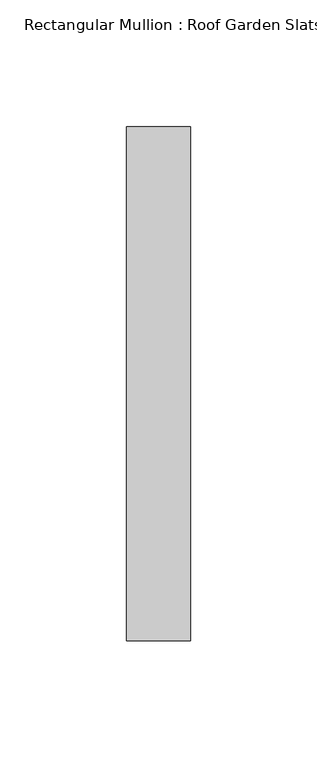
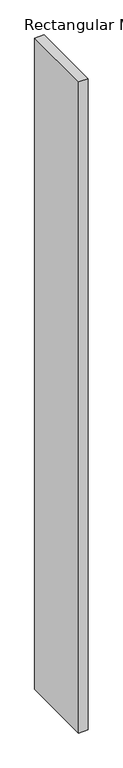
"""IFC4 building model written with IfcOpenShell, lengths in millimetres: member geometry, Rectangular Mullion : Roof Garden Slats."""

from ifc_helpers import new_model, si_unit, frame, origin, place, context, project, spatial, polyline, outline, extrude, source, transform, mapped, element, save


def rectangular_mullion_roof_garden_slats_e3addbe3(model_context):
    return source(origin(), model_context, "Body", "SweptSolid", [
        extrude(outline(polyline([(12.7, 139.7), (12.7, -63.5), (-12.7, -63.5), (-12.7, 139.7), (12.7, 139.7)])), frame((0.0, 0.0, -1837.9366159), z_axis=(0.0, 0.0, 1.0), x_axis=(1.0, 0.0, 0.0)), (0.0, 0.0, 1.0), 1837.9366159),
    ])


if __name__ == "__main__":
    model = new_model("IFC4")
    model_context = context("Model", 3, world=origin())
    ifc_project = project(units=[si_unit("LENGTHUNIT", "METRE", prefix="MILLI")], contexts=[model_context])
    site = spatial("IfcSite", under=ifc_project)
    building = spatial("IfcBuilding", under=site)
    placement = place(None, origin())
    rectangular_mullion_roof_garden_slats_shape = rectangular_mullion_roof_garden_slats_e3addbe3(model_context)
    element("IfcMember", 1, ObjectType="Rectangular Mullion : Roof Garden Slats", at=placement, inside=building, context=model_context, shape_type="MappedRepresentation", body=[
        mapped(rectangular_mullion_roof_garden_slats_shape, transform((0.0, 0.0, 0.0), x_axis=(1.0, 0.0, 0.0), y_axis=(0.0, 1.0, 0.0), z_axis=(0.0, 0.0, 1.0))),
    ])
    save(model, "model.ifc")
